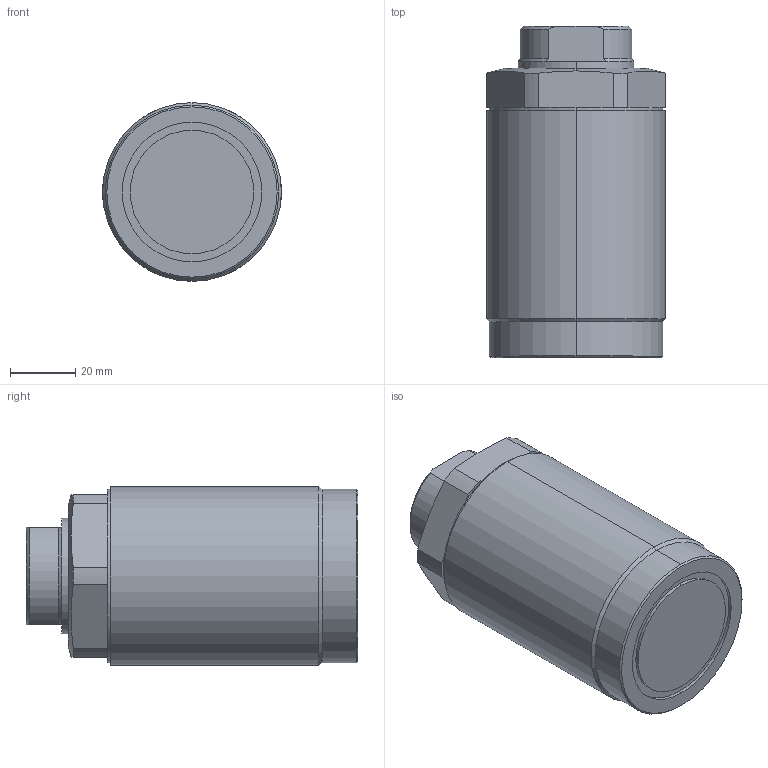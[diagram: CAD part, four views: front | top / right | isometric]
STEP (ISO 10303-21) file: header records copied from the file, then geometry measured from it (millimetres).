
FILE_DESCRIPTION (( 'STEP AP203' ), '1' );
FILE_NAME ('T03C-M556-L threaded pusher.STEP', '2022-07-09T17:44:57', ( '' ), ( '' ), 'SwSTEP 2.0', 'SolidWorks 2017', '' );
FILE_SCHEMA (( 'CONFIG_CONTROL_DESIGN' ));
Length unit declared in the file: millimetre
Products named in the file (3): T03C-M556-L threaded pusher; T03C-M556-L part-1; T03C-M556-L part-2
Assembly tree (2 placements, depth 2):
  T03C-M556-L threaded pusher
    T03C-M556-L part-1
    T03C-M556-L part-2
Bounding box: 55 x 102 x 55 mm (x, y, z)
Volume: 263382.5 mm3; surface area: 29087.5 mm2
Topology: 2 solids, 2 shells, 254 faces, 672 edges, 443 vertices
Faces by surface type: plane 131, bspline 87, cylinder 22, cone 14
Entity records: 12644 total; most frequent: CARTESIAN_POINT 6734, ORIENTED_EDGE 1340, DIRECTION 833, EDGE_CURVE 670, VERTEX_POINT 443, LINE 357, VECTOR 357, EDGE_LOOP 277
